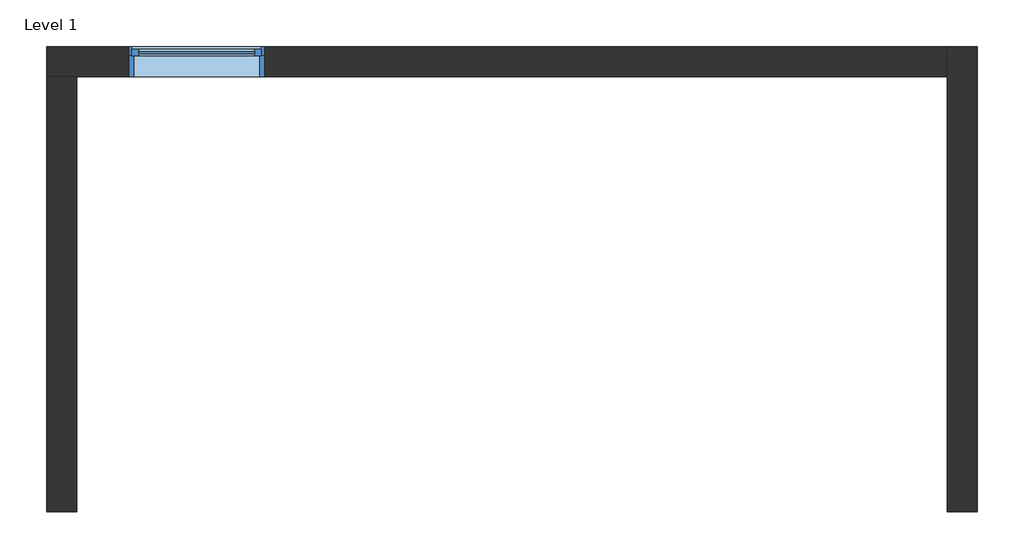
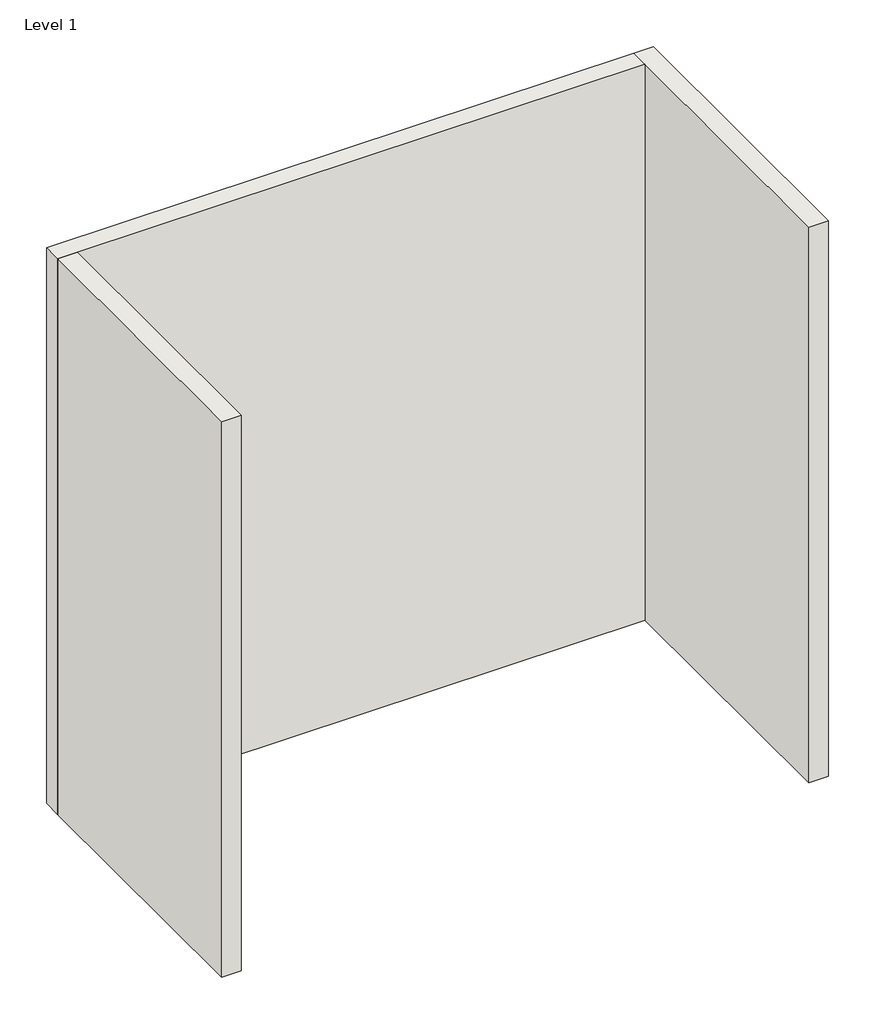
# One storey: 3 walls, 1 window.
"""IFC4 building model written with IfcOpenShell, lengths in millimetres."""

from ifc_helpers import new_model, si_unit, origin, origin_with_axes, place, context, project, spatial, polyline, outline, extrude, faceted_brep, transform, mapped, element, save
from components import window_e2841890

model = new_model("IFC4")

# Units and contexts
model_context = context("Model", 3, world=origin())
ifc_project = project(units=[si_unit("LENGTHUNIT", "METRE", prefix="MILLI")], contexts=[model_context])

# Site, building, storey
site = spatial("IfcSite", under=ifc_project)
building = spatial("IfcBuilding", under=site)
storey = spatial("IfcBuildingStorey", under=building, Name="Level 1", Elevation=0.0)

# Walls
placement = place(None, origin())
element("IfcWall", 1, ObjectType="Generic - 8\"", at=placement, inside=storey, context=model_context, shape_type="Brep", body=[
    faceted_brep([(-852.706997, 219.0388617, 0.0), (-649.506997, 219.0388617, 0.0), (5243.293003, 219.0388617, 0.0), (5243.293003, 219.0388617, 6096.0), (-649.506997, 219.0388617, 6096.0), (-852.706997, 219.0388617, 6096.0), (620.493003, 219.0388617, 2133.6), (620.493003, 219.0388617, 914.4), (-293.906997, 219.0388617, 914.4), (-293.906997, 219.0388617, 2133.6), (-852.706997, 422.2388617, 0.0), (-852.706997, 422.2388617, 6096.0), (5243.293003, 422.2388617, 6096.0), (5243.293003, 422.2388617, 0.0), (620.493003, 422.2388617, 2133.6), (-293.906997, 422.2388617, 2133.6), (-293.906997, 422.2388617, 914.4), (620.493003, 422.2388617, 914.4)], [[[0, 1, 2, 3, 4, 5], [6, 7, 8, 9]], [[10, 11, 12, 13], [14, 15, 16, 17]], [[2, 1, 0, 10, 13]], [[5, 4, 3, 12, 11]], [[0, 5, 11, 10]], [[3, 2, 13, 12]], [[7, 6, 14, 17]], [[8, 7, 17, 16]], [[9, 8, 16, 15]], [[6, 9, 15, 14]]]),
])
element("IfcWall", 2, ObjectType="Generic - 8\"", at=placement, inside=storey, context=model_context, shape_type="SweptSolid", body=[
    extrude(outline(polyline([(-649.506997, 219.0388617), (-649.506997, -2727.3611383), (-852.706997, -2727.3611383), (-852.706997, 219.0388617), (-649.506997, 219.0388617)])), origin_with_axes(), (0.0, 0.0, 1.0), 6096.0),
])
element("IfcWall", 3, ObjectType="Generic - 8\"", at=placement, inside=storey, context=model_context, shape_type="Brep", body=[
    faceted_brep([(5243.293003, 422.2388617, 0.0), (5243.293003, 219.0388617, 0.0), (5243.293003, -2727.3611383, 0.0), (5243.293003, -2727.3611383, 6096.0), (5243.293003, 219.0388617, 6096.0), (5243.293003, 422.2388617, 6096.0), (5446.493003, 422.2388617, 0.0), (5446.493003, 422.2388617, 6096.0), (5446.493003, -2727.3611383, 6096.0), (5446.493003, -2727.3611383, 0.0)], [[[0, 1, 2, 3, 4, 5]], [[6, 7, 8, 9]], [[2, 1, 0, 6, 9]], [[3, 2, 9, 8]], [[5, 4, 3, 8, 7]], [[0, 5, 7, 6]]]),
])

# Window
window_shape = window_e2841890(model_context)
element("IfcWindow", 4, ObjectType="Fixed : 36\" x 48\"", at=placement, inside=storey, context=model_context, shape_type="MappedRepresentation", body=[
    mapped(window_shape, transform((201.393003, 320.6388617, 0.0), x_axis=(1.0, 0.0, 0.0), y_axis=(0.0, 1.0, 0.0), z_axis=(0.0, 0.0, 1.0))),
])

save(model, "model.ifc")
